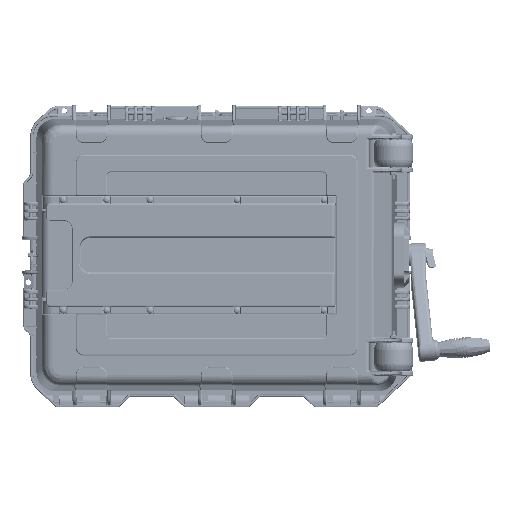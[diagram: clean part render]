
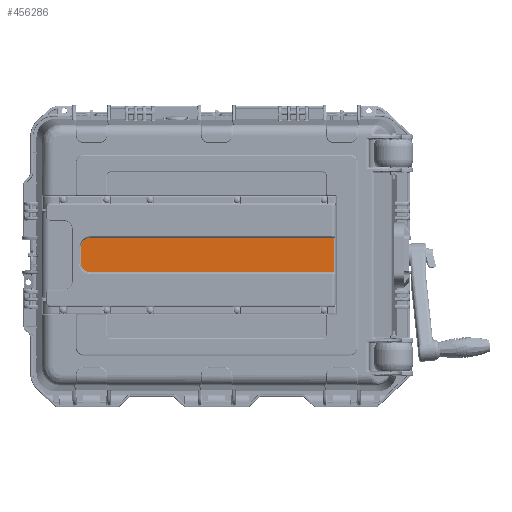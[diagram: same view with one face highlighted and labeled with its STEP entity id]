
A CAD part, front view. The second image highlights one B-rep face of the part: STEP entity #456286.
In plain terms, the highlighted planar face has unit normal (0, -1, 0).
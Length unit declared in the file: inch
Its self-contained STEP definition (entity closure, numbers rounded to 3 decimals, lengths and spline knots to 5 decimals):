
#5976 = VECTOR ( 'NONE', #670788, 39.37008 ) ;
#12126 = ORIENTED_EDGE ( 'NONE', *, *, #540814, .F. ) ;
#13787 = EDGE_LOOP ( 'NONE', ( #249225, #12126, #367308, #789534, #297638, #761175 ) ) ;
#21484 = EDGE_CURVE ( 'NONE', #158148, #110378, #485305, .T. ) ;
#93050 = CARTESIAN_POINT ( 'NONE',  ( -8.57055, -14.965, -0.5 ) ) ;
#110378 = VERTEX_POINT ( 'NONE', #703371 ) ;
#118945 = DIRECTION ( 'NONE',  ( 0., -1., 0. ) ) ;
#135124 = AXIS2_PLACEMENT_3D ( 'NONE', #608581, #118945, #480755 ) ;
#158148 = VERTEX_POINT ( 'NONE', #252922 ) ;
#168910 = CARTESIAN_POINT ( 'NONE',  ( -8.57055, -14.965, 1.16937 ) ) ;
#199164 = VERTEX_POINT ( 'NONE', #624714 ) ;
#230193 = CARTESIAN_POINT ( 'NONE',  ( -9.23992, -14.965, 0.5 ) ) ;
#234833 = CARTESIAN_POINT ( 'NONE',  ( 7.97239, -14.965, 1.19239 ) ) ;
#248025 = EDGE_CURVE ( 'NONE', #782095, #694377, #596516, .T. ) ;
#249225 = ORIENTED_EDGE ( 'NONE', *, *, #248025, .T. ) ;
#252922 = CARTESIAN_POINT ( 'NONE',  ( 7.97239, -14.965, 1.16937 ) ) ;
#265709 = DIRECTION ( 'NONE',  ( 0., 1., 0. ) ) ;
#266942 = LINE ( 'NONE', #464131, #571175 ) ;
#270901 = EDGE_CURVE ( 'NONE', #199164, #158148, #350008, .T. ) ;
#295773 = DIRECTION ( 'NONE',  ( 0., 0., -1. ) ) ;
#297638 = ORIENTED_EDGE ( 'NONE', *, *, #21484, .T. ) ;
#323917 = EDGE_CURVE ( 'NONE', #110378, #782095, #651831, .T. ) ;
#350008 = LINE ( 'NONE', #234833, #417610 ) ;
#357405 = FACE_OUTER_BOUND ( 'NONE', #13787, .T. ) ;
#367308 = ORIENTED_EDGE ( 'NONE', *, *, #791526, .F. ) ;
#402364 = DIRECTION ( 'NONE',  ( -1., 0., 0. ) ) ;
#417610 = VECTOR ( 'NONE', #601174, 39.37008 ) ;
#429461 = DIRECTION ( 'NONE',  ( 0., 0., -1. ) ) ;
#444949 = VECTOR ( 'NONE', #295773, 39.37008 ) ;
#456286 = ADVANCED_FACE ( 'NONE', ( #357405 ), #794193, .T. ) ;
#460241 = CARTESIAN_POINT ( 'NONE',  ( -8.57055, -14.965, -1.16937 ) ) ;
#464131 = CARTESIAN_POINT ( 'NONE',  ( -8.57055, -14.965, -1.16937 ) ) ;
#479919 = CARTESIAN_POINT ( 'NONE',  ( -9.23992, -14.965, 0.5 ) ) ;
#480755 = DIRECTION ( 'NONE',  ( 0., 0., -1. ) ) ;
#485305 = LINE ( 'NONE', #168910, #5976 ) ;
#530396 = VERTEX_POINT ( 'NONE', #460241 ) ;
#537994 = AXIS2_PLACEMENT_3D ( 'NONE', #93050, #265709, #578556 ) ;
#540814 = EDGE_CURVE ( 'NONE', #530396, #694377, #748749, .T. ) ;
#571175 = VECTOR ( 'NONE', #402364, 39.37008 ) ;
#578556 = DIRECTION ( 'NONE',  ( 0., 0., 1. ) ) ;
#596516 = LINE ( 'NONE', #230193, #444949 ) ;
#601174 = DIRECTION ( 'NONE',  ( 0., 0., 1. ) ) ;
#608581 = CARTESIAN_POINT ( 'NONE',  ( -8.57055, -14.965, 0.5 ) ) ;
#624714 = CARTESIAN_POINT ( 'NONE',  ( 7.97239, -14.965, -1.16937 ) ) ;
#651831 = CIRCLE ( 'NONE', #678358, 0.66937 ) ;
#670788 = DIRECTION ( 'NONE',  ( -1., 0., 0. ) ) ;
#678358 = AXIS2_PLACEMENT_3D ( 'NONE', #742880, #746937, #429461 ) ;
#694377 = VERTEX_POINT ( 'NONE', #734891 ) ;
#703371 = CARTESIAN_POINT ( 'NONE',  ( -8.57055, -14.965, 1.16937 ) ) ;
#734891 = CARTESIAN_POINT ( 'NONE',  ( -9.23992, -14.965, -0.5 ) ) ;
#742880 = CARTESIAN_POINT ( 'NONE',  ( -8.57055, -14.965, 0.5 ) ) ;
#746937 = DIRECTION ( 'NONE',  ( 0., -1., 0. ) ) ;
#748749 = CIRCLE ( 'NONE', #537994, 0.66937 ) ;
#761175 = ORIENTED_EDGE ( 'NONE', *, *, #323917, .T. ) ;
#782095 = VERTEX_POINT ( 'NONE', #479919 ) ;
#789534 = ORIENTED_EDGE ( 'NONE', *, *, #270901, .T. ) ;
#791526 = EDGE_CURVE ( 'NONE', #199164, #530396, #266942, .T. ) ;
#794193 = PLANE ( 'NONE',  #135124 ) ;
